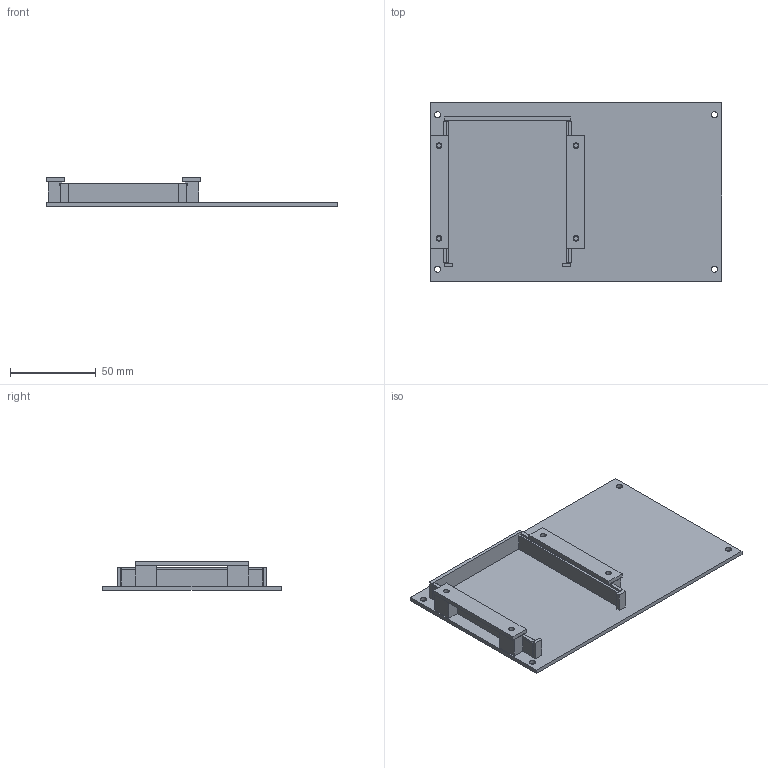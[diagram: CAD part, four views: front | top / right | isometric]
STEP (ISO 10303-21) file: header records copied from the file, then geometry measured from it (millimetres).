
FILE_DESCRIPTION(('Open CASCADE Model'),'2;1');
FILE_NAME('Open CASCADE Shape Model','2026-10-06T15:21:37',('Author'),( 'Open CASCADE'),'Open CASCADE STEP processor 7.9','Open CASCADE 7.9' ,'Unknown');
FILE_SCHEMA(('AUTOMOTIVE_DESIGN { 1 0 10303 214 1 1 1 1 }'));
Length unit declared in the file: millimetre
Products named in the file (4): Hammond_Nucleo_V2; Carrier; Left_retainer; Right_retainer
Assembly tree (3 placements, depth 2):
  Hammond_Nucleo_V2
    Carrier
    Left_retainer
    Right_retainer
Bounding box: 170 x 104 x 16.8 mm (x, y, z)
Volume: 56398.8 mm3; surface area: 47374.6 mm2
Topology: 3 solids, 3 shells, 99 faces, 252 edges, 168 vertices
Faces by surface type: plane 87, cylinder 12
Full cylindrical faces by diameter (mm): 2.5 x4, 3.3 x4, 3.6 x4
Entity records: 6162 total; most frequent: CARTESIAN_POINT 1183, DIRECTION 830, LINE 552, VECTOR 552, ORIENTED_EDGE 504, PCURVE 504, DEFINITIONAL_REPRESENTATION 504, EDGE_CURVE 252
